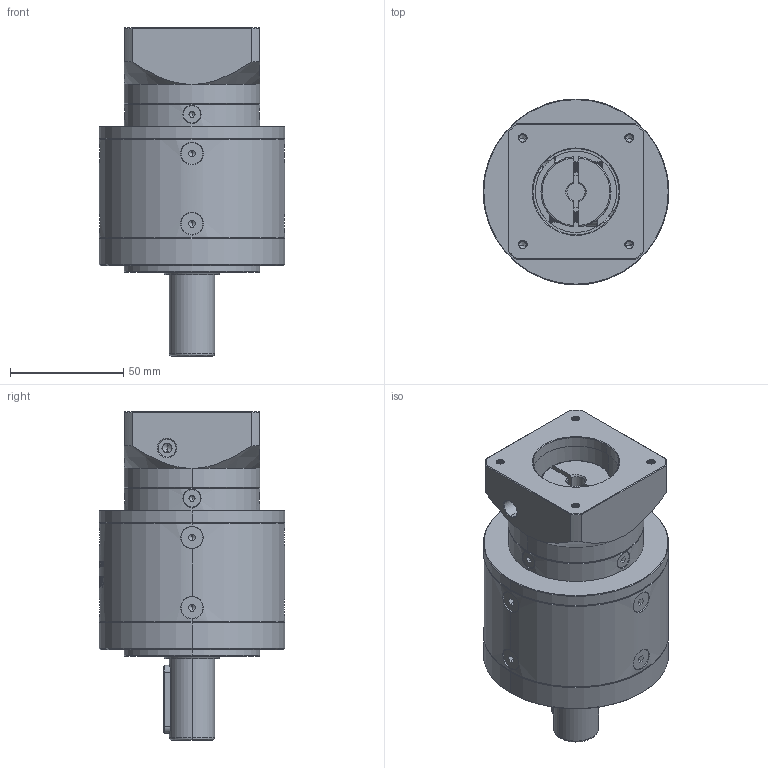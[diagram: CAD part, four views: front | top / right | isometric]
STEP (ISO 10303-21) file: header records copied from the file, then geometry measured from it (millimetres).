
FILE_DESCRIPTION (( 'STEP AP214' ), '1' );
FILE_NAME ('ZE80-D20-L2-8-38.1-47.14X47.14-M4.step', '2022-05-08T06:00:45', ( '' ), ( 'Microsoft' ), 'SwSTEP 2.0', 'SolidWorks 2016', '' );
FILE_SCHEMA (( 'AUTOMOTIVE_DESIGN' ));
Length unit declared in the file: millimetre
Products named in the file (1): ZE80-D20-L2-8-38.1-47.14X47.14-M4
Bounding box: 82 x 82 x 145 mm (x, y, z)
Volume: 448700.5 mm3; surface area: 64077.9 mm2
Topology: 18 solids, 18 shells, 2088 faces, 5487 edges, 3490 vertices
Faces by surface type: plane 943, cylinder 485, bspline 340, cone 306, torus 14
Entity records: 116011 total; most frequent: CARTESIAN_POINT 45663, ORIENTED_EDGE 10882, DIRECTION 8467, EDGE_CURVE 5441, VERTEX_POINT 3490, VECTOR 2901, LINE 2901, AXIS2_PLACEMENT_3D 2783
